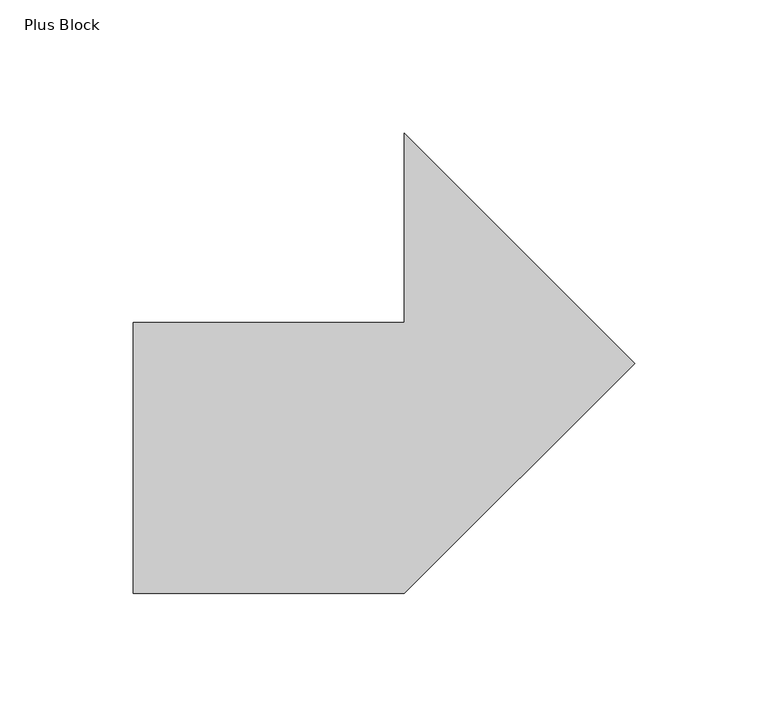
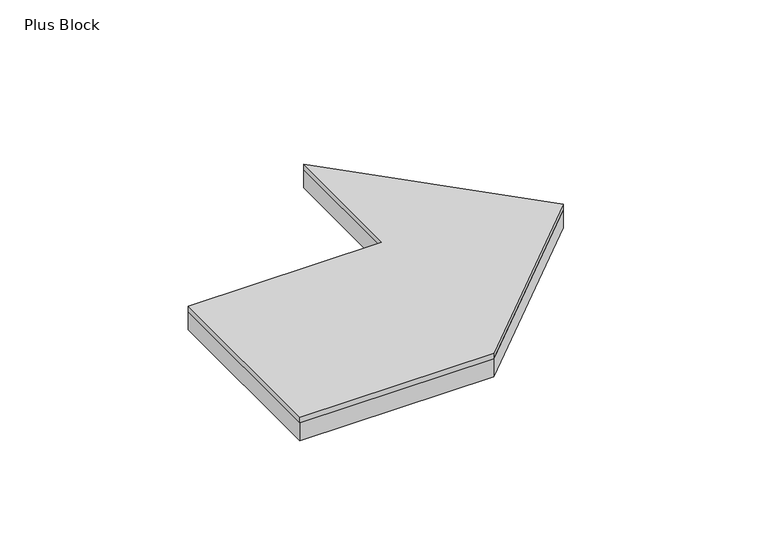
"""IFC4 building model written with IfcOpenShell, lengths in millimetres: proxy geometry, FilzFelt_Plus_Block : Plus Block."""

from ifc_helpers import new_model, si_unit, frame, origin, origin_with_axes, place, context, project, spatial, polyline, outline, extrude, source, transform, mapped, element, save


def plus_block_92bfb5da(model_context):
    return source(origin(), model_context, "Body", "SweptSolid", [
        extrude(outline(polyline([(-50.8333333, -50.8333333), (-152.5, -50.8333333), (-152.5, 50.8333333), (-50.8333333, 50.8333333), (-50.8333333, 121.918666), (35.5426663, 35.5426663), (-50.8333333, -50.8333333)])), frame((0.0, 0.0, 10.0210937), z_axis=(0.0, 0.0, 1.0), x_axis=(1.0, 0.0, 0.0)), (0.0, 0.0, 1.0), 2.9765625),
        extrude(outline(polyline([(-152.5, -50.8333333), (-152.5, 50.8333333), (-50.8333333, 50.8333333), (-50.8333333, 121.918666), (35.5426663, 35.5426663), (-50.8333333, -50.8333333), (-152.5, -50.8333333)])), origin_with_axes(), (0.0, 0.0, 1.0), 10.0210938),
    ])


if __name__ == "__main__":
    model = new_model("IFC4")
    model_context = context("Model", 3, world=origin())
    ifc_project = project(units=[si_unit("LENGTHUNIT", "METRE", prefix="MILLI")], contexts=[model_context])
    site = spatial("IfcSite", under=ifc_project)
    building = spatial("IfcBuilding", under=site)
    placement = place(None, origin())
    plus_block_shape = plus_block_92bfb5da(model_context)
    element("IfcBuildingElementProxy", 1, Name="FilzFelt_Plus_Block : Plus Block", ObjectType="FilzFelt_Plus_Block : Plus Block", at=placement, inside=building, context=model_context, shape_type="MappedRepresentation", body=[
        mapped(plus_block_shape, transform((0.0, 0.0, 0.0), x_axis=(1.0, 0.0, 0.0), y_axis=(0.0, 1.0, 0.0), z_axis=(0.0, 0.0, 1.0))),
    ])
    save(model, "model.ifc")
